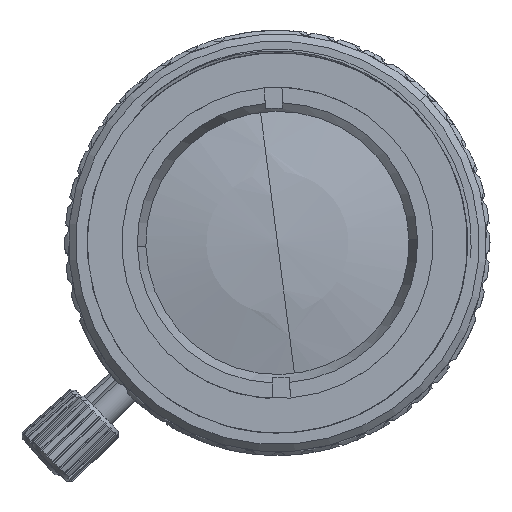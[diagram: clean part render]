
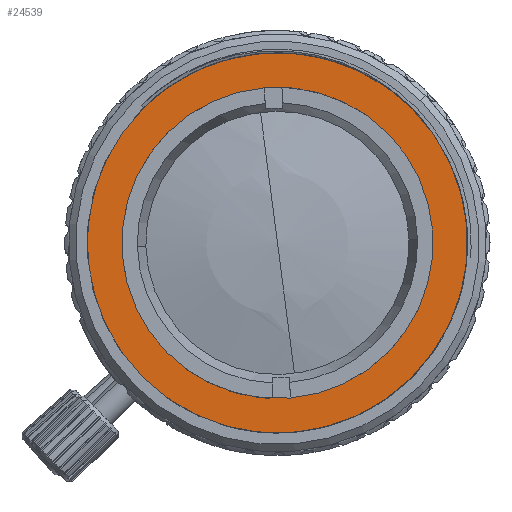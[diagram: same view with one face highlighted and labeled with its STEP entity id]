
A CAD part, left-side view. The second image highlights one B-rep face of the part: STEP entity #24539.
In plain terms, the highlighted planar face has unit normal (-1, 0, 0).
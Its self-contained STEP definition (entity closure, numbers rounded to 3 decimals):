
#1226 = AXIS2_PLACEMENT_3D ( 'NONE', #24964, #32834, #16857 ) ;
#3829 = DIRECTION ( 'NONE',  ( -1., 0., 0. ) ) ;
#4518 = CARTESIAN_POINT ( 'NONE',  ( -0.35, 26.769, 58.396 ) ) ;
#4707 = EDGE_CURVE ( 'NONE', #44018, #32424, #15435, .T. ) ;
#7546 = EDGE_CURVE ( 'NONE', #32424, #44018, #20789, .T. ) ;
#8009 = EDGE_CURVE ( 'NONE', #49446, #21242, #24035, .T. ) ;
#8128 = EDGE_LOOP ( 'NONE', ( #8140, #48414 ) ) ;
#8140 = ORIENTED_EDGE ( 'NONE', *, *, #7546, .F. ) ;
#8736 = CARTESIAN_POINT ( 'NONE',  ( -0.35, 36.143, 49.102 ) ) ;
#8884 = FACE_OUTER_BOUND ( 'NONE', #21169, .T. ) ;
#15435 = CIRCLE ( 'NONE', #1226, 10.8 ) ;
#16759 = EDGE_CURVE ( 'NONE', #21242, #49446, #48274, .T. ) ;
#16857 = DIRECTION ( 'NONE',  ( 0., 0.71, -0.704 ) ) ;
#20513 = DIRECTION ( 'NONE',  ( -1., 0., 0. ) ) ;
#20789 = CIRCLE ( 'NONE', #50041, 10.8 ) ;
#20923 = DIRECTION ( 'NONE',  ( 0., -0.704, -0.71 ) ) ;
#21169 = EDGE_LOOP ( 'NONE', ( #34433, #21924 ) ) ;
#21242 = VERTEX_POINT ( 'NONE', #48889 ) ;
#21924 = ORIENTED_EDGE ( 'NONE', *, *, #16759, .T. ) ;
#22373 = DIRECTION ( 'NONE',  ( -1., 0., 0. ) ) ;
#24035 = CIRCLE ( 'NONE', #44938, 13.2 ) ;
#24539 = ADVANCED_FACE ( 'NONE', ( #8884, #40816 ), #44763, .F. ) ;
#24964 = CARTESIAN_POINT ( 'NONE',  ( -0.35, 26.769, 58.396 ) ) ;
#32424 = VERTEX_POINT ( 'NONE', #51759 ) ;
#32834 = DIRECTION ( 'NONE',  ( -1., 0., 0. ) ) ;
#33913 = CARTESIAN_POINT ( 'NONE',  ( -0.35, 26.769, 58.396 ) ) ;
#34433 = ORIENTED_EDGE ( 'NONE', *, *, #8009, .T. ) ;
#35000 = CARTESIAN_POINT ( 'NONE',  ( -0.35, 19.099, 65.999 ) ) ;
#36485 = DIRECTION ( 'NONE',  ( 0., 0.71, -0.704 ) ) ;
#38346 = DIRECTION ( 'NONE',  ( 0., 0.71, -0.704 ) ) ;
#39362 = AXIS2_PLACEMENT_3D ( 'NONE', #45266, #45528, #20923 ) ;
#40724 = DIRECTION ( 'NONE',  ( 0., 0.71, -0.704 ) ) ;
#40816 = FACE_BOUND ( 'NONE', #8128, .T. ) ;
#44018 = VERTEX_POINT ( 'NONE', #35000 ) ;
#44125 = AXIS2_PLACEMENT_3D ( 'NONE', #33913, #22373, #38346 ) ;
#44666 = CARTESIAN_POINT ( 'NONE',  ( -0.35, 26.769, 58.396 ) ) ;
#44763 = PLANE ( 'NONE',  #39362 ) ;
#44938 = AXIS2_PLACEMENT_3D ( 'NONE', #4518, #20513, #36485 ) ;
#45266 = CARTESIAN_POINT ( 'NONE',  ( -0.35, 17.395, 67.689 ) ) ;
#45528 = DIRECTION ( 'NONE',  ( 1., 0., 0. ) ) ;
#48274 = CIRCLE ( 'NONE', #44125, 13.2 ) ;
#48414 = ORIENTED_EDGE ( 'NONE', *, *, #4707, .F. ) ;
#48889 = CARTESIAN_POINT ( 'NONE',  ( -0.35, 17.395, 67.689 ) ) ;
#49446 = VERTEX_POINT ( 'NONE', #8736 ) ;
#50041 = AXIS2_PLACEMENT_3D ( 'NONE', #44666, #3829, #40724 ) ;
#51759 = CARTESIAN_POINT ( 'NONE',  ( -0.35, 34.439, 50.792 ) ) ;
